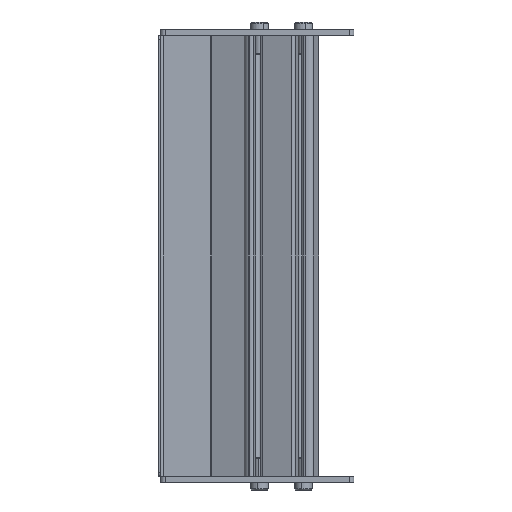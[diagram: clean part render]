
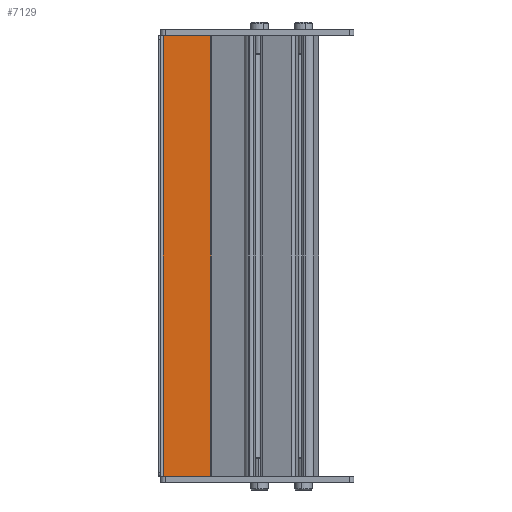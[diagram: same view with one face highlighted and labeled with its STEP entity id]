
A CAD part, left-side view. The second image highlights one B-rep face of the part: STEP entity #7129.
In plain terms, the highlighted planar face has unit normal (-1, 0, 0) as drawn and (1, 0, 0) by its records, which use the part's own axes.
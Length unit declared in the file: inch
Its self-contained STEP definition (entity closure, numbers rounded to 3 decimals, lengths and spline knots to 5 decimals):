
#6517=DIRECTION('',(0.,0.,1.));
#6518=VECTOR('',#6517,8.236);
#6519=CARTESIAN_POINT('',(0.048,0.01693,-4.118));
#6520=LINE('',#6519,#6518);
#6547=DIRECTION('',(0.,-1.,0.));
#6548=VECTOR('',#6547,0.88707);
#6549=CARTESIAN_POINT('',(0.048,0.904,-4.118));
#6550=LINE('',#6549,#6548);
#6551=DIRECTION('',(0.,-1.,0.));
#6552=VECTOR('',#6551,0.88707);
#6553=CARTESIAN_POINT('',(0.048,0.904,4.118));
#6554=LINE('',#6553,#6552);
#6555=DIRECTION('',(0.,0.,-1.));
#6556=VECTOR('',#6555,8.236);
#6557=CARTESIAN_POINT('',(0.048,0.904,4.118));
#6558=LINE('',#6557,#6556);
#6780=CARTESIAN_POINT('',(0.048,0.904,-4.118));
#6782=VERTEX_POINT('',#6780);
#6785=CARTESIAN_POINT('',(0.048,0.904,4.118));
#6786=VERTEX_POINT('',#6785);
#6813=CARTESIAN_POINT('',(0.048,0.01693,-4.118));
#6814=VERTEX_POINT('',#6813);
#6849=CARTESIAN_POINT('',(0.048,0.01693,4.118));
#6850=VERTEX_POINT('',#6849);
#7117=CARTESIAN_POINT('',(0.048,0.,4.118));
#7118=DIRECTION('',(-1.,0.,0.));
#7119=DIRECTION('',(0.,0.,1.));
#7120=AXIS2_PLACEMENT_3D('',#7117,#7118,#7119);
#7121=PLANE('',#7120);
#7122=ORIENTED_EDGE('',*,*,#7110,.T.);
#7123=ORIENTED_EDGE('',*,*,#7053,.T.);
#7124=ORIENTED_EDGE('',*,*,#7082,.F.);
#7126=ORIENTED_EDGE('',*,*,#7125,.T.);
#7127=EDGE_LOOP('',(#7122,#7123,#7124,#7126));
#7128=FACE_OUTER_BOUND('',#7127,.F.);
#7053=EDGE_CURVE('',#6814,#6850,#6520,.T.);
#7082=EDGE_CURVE('',#6786,#6850,#6554,.T.);
#7110=EDGE_CURVE('',#6782,#6814,#6550,.T.);
#7125=EDGE_CURVE('',#6786,#6782,#6558,.T.);
#7129=ADVANCED_FACE('',(#7128),#7121,.F.);
